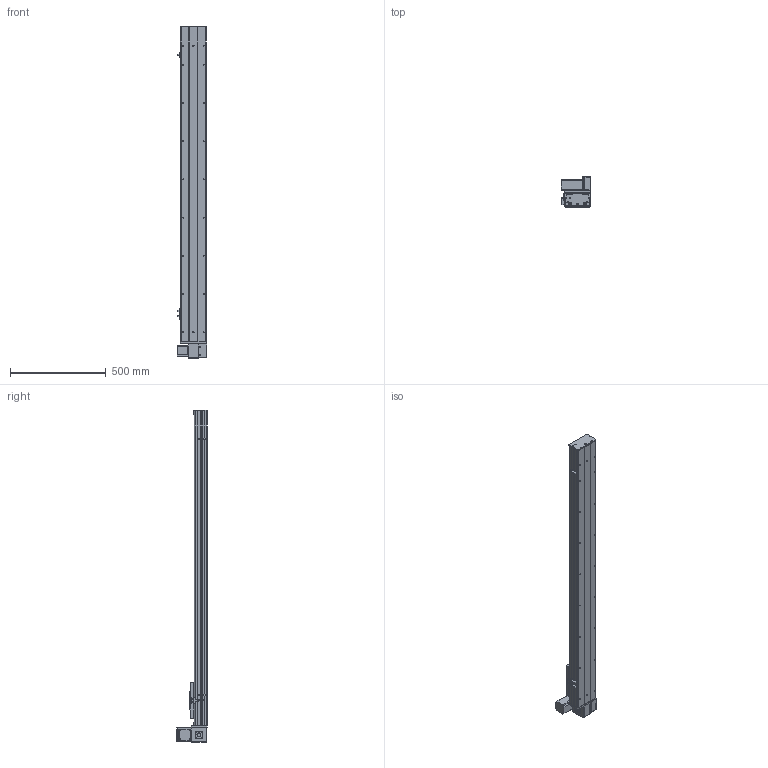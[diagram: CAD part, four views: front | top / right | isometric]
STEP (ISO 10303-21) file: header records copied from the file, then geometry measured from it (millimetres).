
FILE_DESCRIPTION (( 'STEP AP203' ), '1' );
FILE_NAME ('Y135CB-D90-S1350-UL-P400W.STEP', '2020-02-18T07:30:40', ( '微软用户' ), ( '微软中国' ), 'SwSTEP 2.0', 'SolidWorks 2017', '' );
FILE_SCHEMA (( 'CONFIG_CONTROL_DESIGN' ));
Length unit declared in the file: millimetre
Products named in the file (18): san松下电机400不带刹车----; Y100-135俋离換覜ん--; 5CB --掛极耜裔啣-; Y135C-陔俋离換覜結え-; 5C--俋欶; Y135CB-耜裔; C-雄赽釱--; 135CB---遴掛极.-; Y10B-耜蚾蟀諉啣----; 35CB---喘謫眊楊擘啣; 00B-俋欶BM--; 0B-埴倛裔啣; Y10B--々湍喘謫眊--666; 0B-源倛裔啣; C-詩湍揤踡え-陔; Y135CB-D90-S1350-UL-P400W; 0B-萇儂楊擘啣; 135CB--詩湍-CE
Assembly tree (21 placements, depth 2):
  Y135CB-D90-S1350-UL-P400W
    Y135CB-耜裔
    135CB---遴掛极.-
    35CB---喘謫眊楊擘啣
    0B-埴倛裔啣
    0B-源倛裔啣
    0B-萇儂楊擘啣
    san松下电机400不带刹车----
    5CB --掛极耜裔啣-  x2
    C-詩湍揤踡え-陔  x2
    135CB--詩湍-CE
    Y100-135俋离換覜ん--  x3
    Y135C-陔俋离換覜結え-
    5C--俋欶
    C-雄赽釱--
    Y10B-耜蚾蟀諉啣----
    00B-俋欶BM--
    Y10B--々湍喘謫眊--666
Bounding box: 157 x 158.7 x 1738 mm (x, y, z)
Volume: 5295314.7 mm3; surface area: 2081128.7 mm2
Topology: 21 solids, 21 shells, 953 faces, 2563 edges, 1698 vertices
Faces by surface type: cylinder 481, plane 456, cone 16
Entity records: 29753 total; most frequent: DIRECTION 4943, CARTESIAN_POINT 4900, ORIENTED_EDGE 4602, EDGE_CURVE 2301, AXIS2_PLACEMENT_3D 1805, VERTEX_POINT 1526, VECTOR 1333, LINE 1333
